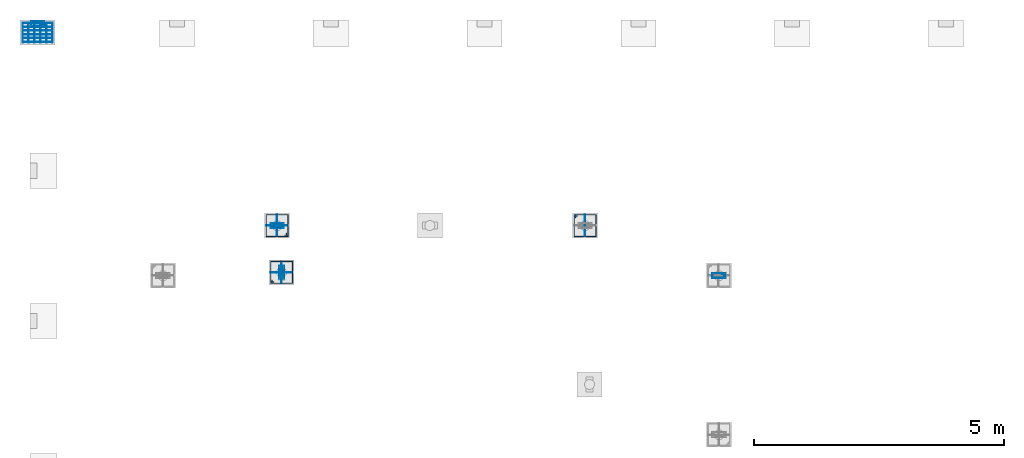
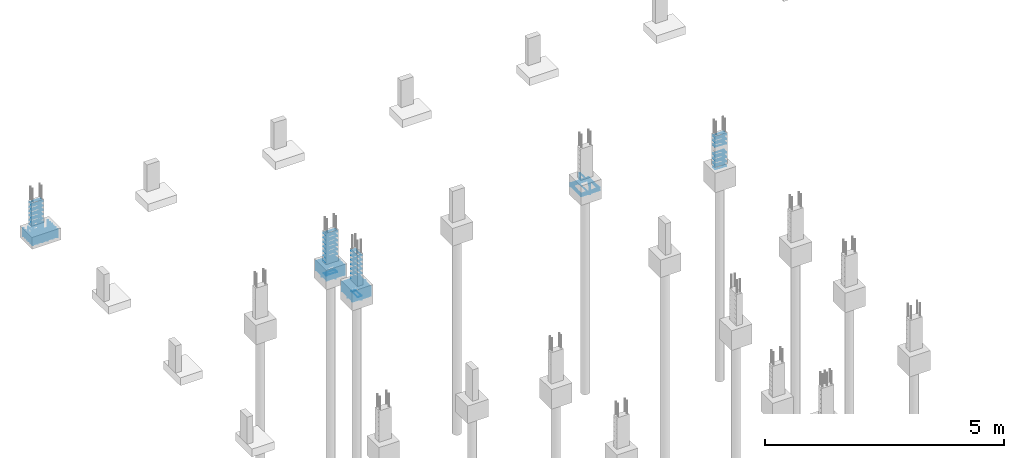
# One storey, part 105 of 119: 64 reinforcing bars.
"""IFC4 building model written with IfcOpenShell, lengths in centimetres."""

from ifc_helpers import new_model, entity, si_unit, derived_unit, frame, origin_with_axes, place, context, project, spatial, source, transform, mapped, element, save


model = new_model("IFC4")

# Units and contexts
model_context = context("Model", 3, precision=1e-05, world=origin_with_axes(), identifier="Body")
ifc_project = project(units=[si_unit("LENGTHUNIT", "METRE", prefix="CENTI"), si_unit("VOLUMEUNIT", "CUBIC_METRE"), si_unit("AREAUNIT", "SQUARE_METRE"), si_unit("POWERUNIT", "WATT"), si_unit("LUMINOUSFLUXUNIT", "LUMEN"), si_unit("ELECTRICCURRENTUNIT", "AMPERE"), si_unit("PRESSUREUNIT", "PASCAL", prefix="KILO"), si_unit("MASSUNIT", "GRAM", prefix="KILO"), si_unit("PLANEANGLEUNIT", "RADIAN"), derived_unit("VOLUMETRICFLOWRATEUNIT", [(si_unit("LENGTHUNIT", "METRE"), 3), (si_unit("TIMEUNIT", "SECOND"), -1)])], contexts=[model_context])

# Site, building, storey
site_placement = place(None, frame((-4000.0, 0.0, 0.0), z_axis=(0.0, 0.0, 1.0), x_axis=(1.0, 0.0, 0.0)))
site = spatial("IfcSite", under=ifc_project, at=site_placement, Name="PADRÃO")
building_placement = place(site_placement, frame((0.0, 0.0, -14.0)))
building = spatial("IfcBuilding", under=site, at=building_placement, Name="CRECHE PRÉ-ESCOLA TIPO 2")
storey_placement = place(building_placement, origin_with_axes())
storey = spatial("IfcBuildingStorey", under=building, at=storey_placement, Name="FUNDAÇÃO", CompositionType="ELEMENT", Elevation=-14.0)

# Reinforcing bars
shared_shape_1 = source(origin_with_axes(), model_context, "Body", "AdvancedSweptSolid", [
    entity("IfcSweptDiskSolid", entity("IfcCompositeCurve", [entity("IfcCompositeCurveSegment", "CONTINUOUS", True, entity("IfcPolyline", [entity("IfcCartesianPoint", [4.25, 21.75, 0.0]), entity("IfcCartesianPoint", [4.25, 27.75, 0.0])])), entity("IfcCompositeCurveSegment", "CONTINUOUS", True, entity("IfcPolyline", [entity("IfcCartesianPoint", [4.25, 27.75, 0.0]), entity("IfcCartesianPoint", [2.25, 27.75, 0.0])])), entity("IfcCompositeCurveSegment", "CONTINUOUS", True, entity("IfcPolyline", [entity("IfcCartesianPoint", [2.25, 27.75, 0.0]), entity("IfcCartesianPoint", [2.25, 2.25, 0.0])])), entity("IfcCompositeCurveSegment", "CONTINUOUS", True, entity("IfcPolyline", [entity("IfcCartesianPoint", [2.25, 2.25, 0.0]), entity("IfcCartesianPoint", [11.75, 2.25, 0.0])])), entity("IfcCompositeCurveSegment", "CONTINUOUS", True, entity("IfcPolyline", [entity("IfcCartesianPoint", [11.75, 2.25, 0.0]), entity("IfcCartesianPoint", [11.75, 27.75, -0.5])])), entity("IfcCompositeCurveSegment", "CONTINUOUS", True, entity("IfcPolyline", [entity("IfcCartesianPoint", [11.75, 27.75, -0.5]), entity("IfcCartesianPoint", [2.25, 27.75, -0.5])])), entity("IfcCompositeCurveSegment", "CONTINUOUS", True, entity("IfcPolyline", [entity("IfcCartesianPoint", [2.25, 27.75, -0.5]), entity("IfcCartesianPoint", [2.25, 25.75, -0.5])])), entity("IfcCompositeCurveSegment", "CONTINUOUS", True, entity("IfcPolyline", [entity("IfcCartesianPoint", [2.25, 25.75, -0.5]), entity("IfcCartesianPoint", [8.25, 25.75, -0.5])]))], False), 0.25),
])
for number, where, z_axis, x_axis, name in (
    (1, (1.5, 4495.5, -50.0625), (0.0, 0.0, 1.0), (0.0, -1.0, 0.0), "P1 - Estribo"),
    (2, (1.5, 4495.5, -38.9375), (0.0, 0.0, 1.0), (0.0, -1.0, 0.0), "P1 - Estribo"),
    (3, (1.5, 4495.5, -27.8125), (0.0, 0.0, 1.0), (0.0, -1.0, 0.0), "P1 - Estribo"),
    (4, (1.5, 4495.5, -16.6875), (0.0, 0.0, 1.0), (0.0, -1.0, 0.0), "P1 - Estribo"),
    (5, (1.5, 4495.5, -5.5625), (0.0, 0.0, 1.0), (0.0, -1.0, 0.0), "P1 - Estribo"),
    (6, (1.5, 4495.5, -83.4375), (0.0, 0.0, 1.0), (0.0, -1.0, 0.0), "P1 - Estribo"),
    (7, (1.5, 4495.5, -72.3125), (0.0, 0.0, 1.0), (0.0, -1.0, 0.0), "P1 - Estribo"),
    (8, (1.5, 4495.5, -61.1875), (0.0, 0.0, 1.0), (0.0, -1.0, 0.0), "P1 - Estribo"),
):
    element("IfcReinforcingBar", number, at=place(storey_placement, frame(where, z_axis=z_axis, x_axis=x_axis)), inside=storey, Name=name, BarLength=0.0, CrossSectionArea=1.9634954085e-05, NominalDiameter=0.5, PredefinedType="MAIN", context=model_context, shape_type="MappedRepresentation", body=[
        mapped(shared_shape_1, transform((0.0, 0.0, 0.0), scale=1.0)),
    ])
shared_shape_2 = source(origin_with_axes(), model_context, "Body", "AdvancedSweptSolid", [
    entity("IfcSweptDiskSolid", entity("IfcCompositeCurve", [entity("IfcCompositeCurveSegment", "CONTINUOUS", True, entity("IfcPolyline", [entity("IfcCartesianPoint", [0.0, 0.0, 19.6]), entity("IfcCartesianPoint", [0.0, 0.0, 0.0])])), entity("IfcCompositeCurveSegment", "CONTINUOUS", True, entity("IfcPolyline", [entity("IfcCartesianPoint", [0.0, 0.0, 0.0]), entity("IfcCartesianPoint", [39.2, 0.0, 0.0])])), entity("IfcCompositeCurveSegment", "CONTINUOUS", True, entity("IfcPolyline", [entity("IfcCartesianPoint", [39.2, 0.0, 0.0]), entity("IfcCartesianPoint", [39.2, 0.0, 19.6])]))], False), 0.4),
])
for number, where, z_axis, x_axis, name in (
    (9, (-13.1, 4490.1, -83.6), (0.0, 0.0, 1.0), (0.0, -1.0, 0.0), "P1 - Sapatas (inferior)"),
    (10, (-1.26, 4490.1, -83.6), (0.0, 0.0, 1.0), (0.0, -1.0, 0.0), "P1 - Sapatas (inferior)"),
    (11, (10.58, 4490.1, -83.6), (0.0, 0.0, 1.0), (0.0, -1.0, 0.0), "P1 - Sapatas (inferior)"),
    (12, (22.42, 4490.1, -83.6), (0.0, 0.0, 1.0), (0.0, -1.0, 0.0), "P1 - Sapatas (inferior)"),
    (13, (34.26, 4490.1, -83.6), (0.0, 0.0, 1.0), (0.0, -1.0, 0.0), "P1 - Sapatas (inferior)"),
    (14, (46.1, 4490.1, -83.6), (0.0, 0.0, 1.0), (0.0, -1.0, 0.0), "P1 - Sapatas (inferior)"),
):
    element("IfcReinforcingBar", number, at=place(storey_placement, frame(where, z_axis=z_axis, x_axis=x_axis)), inside=storey, Name=name, BarLength=0.0, CrossSectionArea=5.0265482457e-05, NominalDiameter=0.8, PredefinedType="MAIN", context=model_context, shape_type="MappedRepresentation", body=[
        mapped(shared_shape_2, transform((0.0, 0.0, 0.0), scale=1.0)),
    ])
shared_shape_3 = source(origin_with_axes(), model_context, "Body", "AdvancedSweptSolid", [
    entity("IfcSweptDiskSolid", entity("IfcCompositeCurve", [entity("IfcCompositeCurveSegment", "CONTINUOUS", True, entity("IfcPolyline", [entity("IfcCartesianPoint", [0.0, 0.0, 18.8]), entity("IfcCartesianPoint", [0.0, 0.0, 0.0])])), entity("IfcCompositeCurveSegment", "CONTINUOUS", True, entity("IfcPolyline", [entity("IfcCartesianPoint", [0.0, 0.0, 0.0]), entity("IfcCartesianPoint", [0.0, 59.2, 0.0])])), entity("IfcCompositeCurveSegment", "CONTINUOUS", True, entity("IfcPolyline", [entity("IfcCartesianPoint", [0.0, 59.2, 0.0]), entity("IfcCartesianPoint", [0.0, 59.2, 18.8])]))], False), 0.4),
])
for number, where, z_axis, x_axis, name in (
    (15, (-13.1, 4489.3, -82.8), (0.0, 0.0, 1.0), (0.0, -1.0, 0.0), "P1 - Sapatas (inferior)"),
    (16, (-13.1, 4481.78, -82.8), (0.0, 0.0, 1.0), (0.0, -1.0, 0.0), "P1 - Sapatas (inferior)"),
    (17, (-13.1, 4474.26, -82.8), (0.0, 0.0, 1.0), (0.0, -1.0, 0.0), "P1 - Sapatas (inferior)"),
    (18, (-13.1, 4466.74, -82.8), (0.0, 0.0, 1.0), (0.0, -1.0, 0.0), "P1 - Sapatas (inferior)"),
    (19, (-13.1, 4459.22, -82.8), (0.0, 0.0, 1.0), (0.0, -1.0, 0.0), "P1 - Sapatas (inferior)"),
    (20, (-13.1, 4451.7, -82.8), (0.0, 0.0, 1.0), (0.0, -1.0, 0.0), "P1 - Sapatas (inferior)"),
):
    element("IfcReinforcingBar", number, at=place(storey_placement, frame(where, z_axis=z_axis, x_axis=x_axis)), inside=storey, Name=name, BarLength=0.0, CrossSectionArea=5.0265482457e-05, NominalDiameter=0.8, PredefinedType="MAIN", context=model_context, shape_type="MappedRepresentation", body=[
        mapped(shared_shape_3, transform((0.0, 0.0, 0.0), scale=1.0)),
    ])
shared_shape_4 = source(origin_with_axes(), model_context, "Body", "AdvancedSweptSolid", [
    entity("IfcSweptDiskSolid", entity("IfcCompositeCurve", [entity("IfcCompositeCurveSegment", "CONTINUOUS", True, entity("IfcPolyline", [entity("IfcCartesianPoint", [4.25, 21.75, 0.0]), entity("IfcCartesianPoint", [4.25, 27.75, 0.0])])), entity("IfcCompositeCurveSegment", "CONTINUOUS", True, entity("IfcPolyline", [entity("IfcCartesianPoint", [4.25, 27.75, 0.0]), entity("IfcCartesianPoint", [2.25, 27.75, 0.0])])), entity("IfcCompositeCurveSegment", "CONTINUOUS", True, entity("IfcPolyline", [entity("IfcCartesianPoint", [2.25, 27.75, 0.0]), entity("IfcCartesianPoint", [2.25, 2.25, 0.0])])), entity("IfcCompositeCurveSegment", "CONTINUOUS", True, entity("IfcPolyline", [entity("IfcCartesianPoint", [2.25, 2.25, 0.0]), entity("IfcCartesianPoint", [11.75, 2.25, 0.0])])), entity("IfcCompositeCurveSegment", "CONTINUOUS", True, entity("IfcPolyline", [entity("IfcCartesianPoint", [11.75, 2.25, 0.0]), entity("IfcCartesianPoint", [11.75, 27.75, -0.5])])), entity("IfcCompositeCurveSegment", "CONTINUOUS", True, entity("IfcPolyline", [entity("IfcCartesianPoint", [11.75, 27.75, -0.5]), entity("IfcCartesianPoint", [2.25, 27.75, -0.5])])), entity("IfcCompositeCurveSegment", "CONTINUOUS", True, entity("IfcPolyline", [entity("IfcCartesianPoint", [2.25, 27.75, -0.5]), entity("IfcCartesianPoint", [2.25, 25.75, -0.5])])), entity("IfcCompositeCurveSegment", "CONTINUOUS", True, entity("IfcPolyline", [entity("IfcCartesianPoint", [2.25, 25.75, -0.5]), entity("IfcCartesianPoint", [8.25, 25.75, -0.5])]))], False), 0.25),
])
for number, where, z_axis, x_axis, name in (
    (21, (1361.84, 3992.0, -86.25), (0.0, 0.0, 1.0), (0.0, -1.0, 0.0), "P25 - Estribo"),
    (22, (1361.84, 3992.0, -74.75), (0.0, 0.0, 1.0), (0.0, -1.0, 0.0), "P25 - Estribo"),
    (23, (1361.84, 3992.0, -63.25), (0.0, 0.0, 1.0), (0.0, -1.0, 0.0), "P25 - Estribo"),
    (24, (1361.84, 3992.0, -51.75), (0.0, 0.0, 1.0), (0.0, -1.0, 0.0), "P25 - Estribo"),
    (25, (1361.84, 3992.0, -28.75), (0.0, 0.0, 1.0), (0.0, -1.0, 0.0), "P25 - Estribo"),
    (26, (1361.84, 3992.0, -17.25), (0.0, 0.0, 1.0), (0.0, -1.0, 0.0), "P25 - Estribo"),
    (27, (1361.84, 3992.0, -5.75), (0.0, 0.0, 1.0), (0.0, -1.0, 0.0), "P25 - Estribo"),
):
    element("IfcReinforcingBar", number, at=place(storey_placement, frame(where, z_axis=z_axis, x_axis=x_axis)), inside=storey, Name=name, BarLength=0.0, CrossSectionArea=1.9634954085e-05, NominalDiameter=0.5, PredefinedType="MAIN", context=model_context, shape_type="MappedRepresentation", body=[
        mapped(shared_shape_4, transform((0.0, 0.0, 0.0), scale=1.0)),
    ])
shared_shape_5 = source(origin_with_axes(), model_context, "Body", "AdvancedSweptSolid", [
    entity("IfcSweptDiskSolid", entity("IfcCompositeCurve", [entity("IfcCompositeCurveSegment", "CONTINUOUS", True, entity("IfcPolyline", [entity("IfcCartesianPoint", [1090.545, 4100.425, 0.0]), entity("IfcCartesianPoint", [1090.545, 4106.685, 0.0])])), entity("IfcCompositeCurveSegment", "CONTINUOUS", True, entity("IfcPolyline", [entity("IfcCartesianPoint", [1090.545, 4106.685, 0.0]), entity("IfcCartesianPoint", [1088.025, 4106.685, 0.0])])), entity("IfcCompositeCurveSegment", "CONTINUOUS", True, entity("IfcPolyline", [entity("IfcCartesianPoint", [1088.025, 4106.685, 0.0]), entity("IfcCartesianPoint", [1088.025, 4063.315, 0.0])])), entity("IfcCompositeCurveSegment", "CONTINUOUS", True, entity("IfcPolyline", [entity("IfcCartesianPoint", [1088.025, 4063.315, 0.0]), entity("IfcCartesianPoint", [1131.395, 4063.315, 0.63])])), entity("IfcCompositeCurveSegment", "CONTINUOUS", True, entity("IfcPolyline", [entity("IfcCartesianPoint", [1131.395, 4063.315, 0.63]), entity("IfcCartesianPoint", [1131.395, 4106.685, 0.63])])), entity("IfcCompositeCurveSegment", "CONTINUOUS", True, entity("IfcPolyline", [entity("IfcCartesianPoint", [1131.395, 4106.685, 0.63]), entity("IfcCartesianPoint", [1088.025, 4106.685, 0.63])])), entity("IfcCompositeCurveSegment", "CONTINUOUS", True, entity("IfcPolyline", [entity("IfcCartesianPoint", [1088.025, 4106.685, 0.63]), entity("IfcCartesianPoint", [1088.025, 4104.165, 0.63])])), entity("IfcCompositeCurveSegment", "CONTINUOUS", True, entity("IfcPolyline", [entity("IfcCartesianPoint", [1088.025, 4104.165, 0.63]), entity("IfcCartesianPoint", [1094.285, 4104.165, 0.63])]))], False), 0.315),
])
for number, where, z_axis, x_axis, name in (
    (28, (0.0, 0.0, -103.525), (0.0, 0.0, 1.0), (1.0, 0.0, 0.0), "P19 - Blocos (estribos)"),
    (29, (0.0, 0.0, -109.175), (0.0, 0.0, 1.0), (1.0, 0.0, 0.0), "P19 - Blocos (estribos)"),
):
    element("IfcReinforcingBar", number, at=place(storey_placement, frame(where, z_axis=z_axis, x_axis=x_axis)), inside=storey, Name=name, BarLength=0.0, CrossSectionArea=3.1172453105e-05, NominalDiameter=0.63, PredefinedType="MAIN", context=model_context, shape_type="MappedRepresentation", body=[
        mapped(shared_shape_5, transform((0.0, 0.0, 0.0), scale=1.0)),
    ])
shared_shape_6 = source(origin_with_axes(), model_context, "Body", "AdvancedSweptSolid", [
    entity("IfcSweptDiskSolid", entity("IfcCompositeCurve", [entity("IfcCompositeCurveSegment", "CONTINUOUS", True, entity("IfcPolyline", [entity("IfcCartesianPoint", [-15.12, -12.0, 0.0]), entity("IfcCartesianPoint", [-21.12, -12.0, 0.0])])), entity("IfcCompositeCurveSegment", "CONTINUOUS", True, entity("IfcPolyline", [entity("IfcCartesianPoint", [-21.12, -12.0, 0.0]), entity("IfcCartesianPoint", [-21.12, -14.0, 0.0])])), entity("IfcCompositeCurveSegment", "CONTINUOUS", True, entity("IfcPolyline", [entity("IfcCartesianPoint", [-21.12, -14.0, 0.0]), entity("IfcCartesianPoint", [21.12, -14.0, 0.0])])), entity("IfcCompositeCurveSegment", "CONTINUOUS", True, entity("IfcPolyline", [entity("IfcCartesianPoint", [21.12, -14.0, 0.0]), entity("IfcCartesianPoint", [21.12, 14.0, 0.5])])), entity("IfcCompositeCurveSegment", "CONTINUOUS", True, entity("IfcPolyline", [entity("IfcCartesianPoint", [21.12, 14.0, 0.5]), entity("IfcCartesianPoint", [-21.12, 14.0, 0.5])])), entity("IfcCompositeCurveSegment", "CONTINUOUS", True, entity("IfcPolyline", [entity("IfcCartesianPoint", [-21.12, 14.0, 0.5]), entity("IfcCartesianPoint", [-21.12, -14.0, 0.5])])), entity("IfcCompositeCurveSegment", "CONTINUOUS", True, entity("IfcPolyline", [entity("IfcCartesianPoint", [-21.12, -14.0, 0.5]), entity("IfcCartesianPoint", [-19.12, -14.0, 0.5])])), entity("IfcCompositeCurveSegment", "CONTINUOUS", True, entity("IfcPolyline", [entity("IfcCartesianPoint", [-19.12, -14.0, 0.5]), entity("IfcCartesianPoint", [-19.12, -8.0, 0.5])]))], False), 0.25),
])
reinforcing_bar_1_placement = place(storey_placement, frame((1109.71, 4085.0, -97.75), z_axis=(-1.0, 0.0, 0.0), x_axis=(0.0, 1.0, 0.0)))
element("IfcReinforcingBar", 30, at=reinforcing_bar_1_placement, inside=storey, Name="P19 - Blocos (estribos)", BarLength=0.0, CrossSectionArea=1.9634954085e-05, NominalDiameter=0.5, PredefinedType="MAIN", context=model_context, shape_type="MappedRepresentation", body=[
    mapped(shared_shape_6, transform((0.0, 0.0, 0.0), scale=1.0)),
])
shared_shape_7 = source(origin_with_axes(), model_context, "Body", "AdvancedSweptSolid", [
    entity("IfcSweptDiskSolid", entity("IfcCompositeCurve", [entity("IfcCompositeCurveSegment", "CONTINUOUS", True, entity("IfcPolyline", [entity("IfcCartesianPoint", [4.25, 21.75, 0.0]), entity("IfcCartesianPoint", [4.25, 27.75, 0.0])])), entity("IfcCompositeCurveSegment", "CONTINUOUS", True, entity("IfcPolyline", [entity("IfcCartesianPoint", [4.25, 27.75, 0.0]), entity("IfcCartesianPoint", [2.25, 27.75, 0.0])])), entity("IfcCompositeCurveSegment", "CONTINUOUS", True, entity("IfcPolyline", [entity("IfcCartesianPoint", [2.25, 27.75, 0.0]), entity("IfcCartesianPoint", [2.25, 2.25, 0.0])])), entity("IfcCompositeCurveSegment", "CONTINUOUS", True, entity("IfcPolyline", [entity("IfcCartesianPoint", [2.25, 2.25, 0.0]), entity("IfcCartesianPoint", [11.75, 2.25, 0.0])])), entity("IfcCompositeCurveSegment", "CONTINUOUS", True, entity("IfcPolyline", [entity("IfcCartesianPoint", [11.75, 2.25, 0.0]), entity("IfcCartesianPoint", [11.75, 27.75, -0.5])])), entity("IfcCompositeCurveSegment", "CONTINUOUS", True, entity("IfcPolyline", [entity("IfcCartesianPoint", [11.75, 27.75, -0.5]), entity("IfcCartesianPoint", [2.25, 27.75, -0.5])])), entity("IfcCompositeCurveSegment", "CONTINUOUS", True, entity("IfcPolyline", [entity("IfcCartesianPoint", [2.25, 27.75, -0.5]), entity("IfcCartesianPoint", [2.25, 25.75, -0.5])])), entity("IfcCompositeCurveSegment", "CONTINUOUS", True, entity("IfcPolyline", [entity("IfcCartesianPoint", [2.25, 25.75, -0.5]), entity("IfcCartesianPoint", [8.25, 25.75, -0.5])]))], False), 0.25),
])
for number, where, z_axis, x_axis, name in (
    (31, (509.67, 4078.0, -51.75), (0.0, 0.0, 1.0), (0.0, 1.0, 0.0), "P17 - Estribo"),
    (32, (509.67, 4078.0, -40.25), (0.0, 0.0, 1.0), (0.0, 1.0, 0.0), "P17 - Estribo"),
    (33, (509.67, 4078.0, -17.25), (0.0, 0.0, 1.0), (0.0, 1.0, 0.0), "P17 - Estribo"),
    (34, (509.67, 4078.0, -28.75), (0.0, 0.0, 1.0), (0.0, 1.0, 0.0), "P17 - Estribo"),
    (35, (509.67, 4078.0, -86.25), (0.0, 0.0, 1.0), (0.0, 1.0, 0.0), "P17 - Estribo"),
    (36, (509.67, 4078.0, -5.75), (0.0, 0.0, 1.0), (0.0, 1.0, 0.0), "P17 - Estribo"),
    (37, (509.67, 4078.0, -63.25), (0.0, 0.0, 1.0), (0.0, 1.0, 0.0), "P17 - Estribo"),
    (38, (509.67, 4078.0, -74.75), (0.0, 0.0, 1.0), (0.0, 1.0, 0.0), "P17 - Estribo"),
    (39, (509.67, 4078.0, -97.75), (0.0, 0.0, 1.0), (0.0, 1.0, 0.0), "P17 - Estribo"),
    (40, (509.67, 4078.0, -109.25), (0.0, 0.0, 1.0), (0.0, 1.0, 0.0), "P17 - Estribo"),
):
    element("IfcReinforcingBar", number, at=place(storey_placement, frame(where, z_axis=z_axis, x_axis=x_axis)), inside=storey, Name=name, BarLength=0.0, CrossSectionArea=1.9634954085e-05, NominalDiameter=0.5, PredefinedType="MAIN", context=model_context, shape_type="MappedRepresentation", body=[
        mapped(shared_shape_7, transform((0.0, 0.0, 0.0), scale=1.0)),
    ])
shared_shape_8 = source(origin_with_axes(), model_context, "Body", "AdvancedSweptSolid", [
    entity("IfcSweptDiskSolid", entity("IfcCompositeCurve", [entity("IfcCompositeCurveSegment", "CONTINUOUS", True, entity("IfcPolyline", [entity("IfcCartesianPoint", [513.835, 4069.575, 0.0]), entity("IfcCartesianPoint", [513.835, 4063.315, 0.0])])), entity("IfcCompositeCurveSegment", "CONTINUOUS", True, entity("IfcPolyline", [entity("IfcCartesianPoint", [513.835, 4063.315, 0.0]), entity("IfcCartesianPoint", [516.355, 4063.315, 0.0])])), entity("IfcCompositeCurveSegment", "CONTINUOUS", True, entity("IfcPolyline", [entity("IfcCartesianPoint", [516.355, 4063.315, 0.0]), entity("IfcCartesianPoint", [516.355, 4106.685, 0.0])])), entity("IfcCompositeCurveSegment", "CONTINUOUS", True, entity("IfcPolyline", [entity("IfcCartesianPoint", [516.355, 4106.685, 0.0]), entity("IfcCartesianPoint", [472.985, 4106.685, 0.63])])), entity("IfcCompositeCurveSegment", "CONTINUOUS", True, entity("IfcPolyline", [entity("IfcCartesianPoint", [472.985, 4106.685, 0.63]), entity("IfcCartesianPoint", [472.985, 4063.315, 0.63])])), entity("IfcCompositeCurveSegment", "CONTINUOUS", True, entity("IfcPolyline", [entity("IfcCartesianPoint", [472.985, 4063.315, 0.63]), entity("IfcCartesianPoint", [516.355, 4063.315, 0.63])])), entity("IfcCompositeCurveSegment", "CONTINUOUS", True, entity("IfcPolyline", [entity("IfcCartesianPoint", [516.355, 4063.315, 0.63]), entity("IfcCartesianPoint", [516.355, 4065.835, 0.63])])), entity("IfcCompositeCurveSegment", "CONTINUOUS", True, entity("IfcPolyline", [entity("IfcCartesianPoint", [516.355, 4065.835, 0.63]), entity("IfcCartesianPoint", [510.095, 4065.835, 0.63])]))], False), 0.315),
])
for number, where, z_axis, x_axis, name in (
    (41, (0.0, 0.0, -97.875), (0.0, 0.0, 1.0), (1.0, 0.0, 0.0), "P17 - Blocos (estribos)"),
    (42, (0.0, 0.0, -92.225), (0.0, 0.0, 1.0), (1.0, 0.0, 0.0), "P17 - Blocos (estribos)"),
    (43, (0.0, 0.0, -86.575), (0.0, 0.0, 1.0), (1.0, 0.0, 0.0), "P17 - Blocos (estribos)"),
    (44, (0.0, 0.0, -109.175), (0.0, 0.0, 1.0), (1.0, 0.0, 0.0), "P17 - Blocos (estribos)"),
    (45, (0.0, 0.0, -103.525), (0.0, 0.0, 1.0), (1.0, 0.0, 0.0), "P17 - Blocos (estribos)"),
):
    element("IfcReinforcingBar", number, at=place(storey_placement, frame(where, z_axis=z_axis, x_axis=x_axis)), inside=storey, Name=name, BarLength=0.0, CrossSectionArea=3.1172453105e-05, NominalDiameter=0.63, PredefinedType="MAIN", context=model_context, shape_type="MappedRepresentation", body=[
        mapped(shared_shape_8, transform((0.0, 0.0, 0.0), scale=1.0)),
    ])
shared_shape_9 = source(origin_with_axes(), model_context, "Body", "AdvancedSweptSolid", [
    entity("IfcSweptDiskSolid", entity("IfcCompositeCurve", [entity("IfcCompositeCurveSegment", "CONTINUOUS", True, entity("IfcPolyline", [entity("IfcCartesianPoint", [-15.12, -12.0, 0.0]), entity("IfcCartesianPoint", [-21.12, -12.0, 0.0])])), entity("IfcCompositeCurveSegment", "CONTINUOUS", True, entity("IfcPolyline", [entity("IfcCartesianPoint", [-21.12, -12.0, 0.0]), entity("IfcCartesianPoint", [-21.12, -14.0, 0.0])])), entity("IfcCompositeCurveSegment", "CONTINUOUS", True, entity("IfcPolyline", [entity("IfcCartesianPoint", [-21.12, -14.0, 0.0]), entity("IfcCartesianPoint", [21.12, -14.0, 0.0])])), entity("IfcCompositeCurveSegment", "CONTINUOUS", True, entity("IfcPolyline", [entity("IfcCartesianPoint", [21.12, -14.0, 0.0]), entity("IfcCartesianPoint", [21.12, 14.0, 0.5])])), entity("IfcCompositeCurveSegment", "CONTINUOUS", True, entity("IfcPolyline", [entity("IfcCartesianPoint", [21.12, 14.0, 0.5]), entity("IfcCartesianPoint", [-21.12, 14.0, 0.5])])), entity("IfcCompositeCurveSegment", "CONTINUOUS", True, entity("IfcPolyline", [entity("IfcCartesianPoint", [-21.12, 14.0, 0.5]), entity("IfcCartesianPoint", [-21.12, -14.0, 0.5])])), entity("IfcCompositeCurveSegment", "CONTINUOUS", True, entity("IfcPolyline", [entity("IfcCartesianPoint", [-21.12, -14.0, 0.5]), entity("IfcCartesianPoint", [-19.12, -14.0, 0.5])])), entity("IfcCompositeCurveSegment", "CONTINUOUS", True, entity("IfcPolyline", [entity("IfcCartesianPoint", [-19.12, -14.0, 0.5]), entity("IfcCartesianPoint", [-19.12, -8.0, 0.5])]))], False), 0.25),
])
reinforcing_bar_2_placement = place(storey_placement, frame((494.67, 4085.0, -97.75), z_axis=(0.0, -1.0, 0.0), x_axis=(-1.0, 0.0, 0.0)))
element("IfcReinforcingBar", 46, at=reinforcing_bar_2_placement, inside=storey, Name="P17 - Blocos (estribos)", BarLength=0.0, CrossSectionArea=1.9634954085e-05, NominalDiameter=0.5, PredefinedType="MAIN", context=model_context, shape_type="MappedRepresentation", body=[
    mapped(shared_shape_9, transform((0.0, 0.0, 0.0), scale=1.0)),
])
shared_shape_10 = source(origin_with_axes(), model_context, "Body", "AdvancedSweptSolid", [
    entity("IfcSweptDiskSolid", entity("IfcCompositeCurve", [entity("IfcCompositeCurveSegment", "CONTINUOUS", True, entity("IfcPolyline", [entity("IfcCartesianPoint", [-15.12, -12.0, 0.0]), entity("IfcCartesianPoint", [-21.12, -12.0, 0.0])])), entity("IfcCompositeCurveSegment", "CONTINUOUS", True, entity("IfcPolyline", [entity("IfcCartesianPoint", [-21.12, -12.0, 0.0]), entity("IfcCartesianPoint", [-21.12, -14.0, 0.0])])), entity("IfcCompositeCurveSegment", "CONTINUOUS", True, entity("IfcPolyline", [entity("IfcCartesianPoint", [-21.12, -14.0, 0.0]), entity("IfcCartesianPoint", [21.12, -14.0, 0.0])])), entity("IfcCompositeCurveSegment", "CONTINUOUS", True, entity("IfcPolyline", [entity("IfcCartesianPoint", [21.12, -14.0, 0.0]), entity("IfcCartesianPoint", [21.12, 14.0, 0.5])])), entity("IfcCompositeCurveSegment", "CONTINUOUS", True, entity("IfcPolyline", [entity("IfcCartesianPoint", [21.12, 14.0, 0.5]), entity("IfcCartesianPoint", [-21.12, 14.0, 0.5])])), entity("IfcCompositeCurveSegment", "CONTINUOUS", True, entity("IfcPolyline", [entity("IfcCartesianPoint", [-21.12, 14.0, 0.5]), entity("IfcCartesianPoint", [-21.12, -14.0, 0.5])])), entity("IfcCompositeCurveSegment", "CONTINUOUS", True, entity("IfcPolyline", [entity("IfcCartesianPoint", [-21.12, -14.0, 0.5]), entity("IfcCartesianPoint", [-19.12, -14.0, 0.5])])), entity("IfcCompositeCurveSegment", "CONTINUOUS", True, entity("IfcPolyline", [entity("IfcCartesianPoint", [-19.12, -14.0, 0.5]), entity("IfcCartesianPoint", [-19.12, -8.0, 0.5])]))], False), 0.25),
])
reinforcing_bar_3_placement = place(storey_placement, frame((494.67, 4085.0, -97.75), z_axis=(1.0, 0.0, 0.0), x_axis=(0.0, -1.0, 0.0)))
element("IfcReinforcingBar", 47, at=reinforcing_bar_3_placement, inside=storey, Name="P17 - Blocos (estribos)", BarLength=0.0, CrossSectionArea=1.9634954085e-05, NominalDiameter=0.5, PredefinedType="MAIN", context=model_context, shape_type="MappedRepresentation", body=[
    mapped(shared_shape_10, transform((0.0, 0.0, 0.0), scale=1.0)),
])
shared_shape_11 = source(origin_with_axes(), model_context, "Body", "AdvancedSweptSolid", [
    entity("IfcSweptDiskSolid", entity("IfcCompositeCurve", [entity("IfcCompositeCurveSegment", "CONTINUOUS", True, entity("IfcPolyline", [entity("IfcCartesianPoint", [4.25, 21.75, 0.0]), entity("IfcCartesianPoint", [4.25, 27.75, 0.0])])), entity("IfcCompositeCurveSegment", "CONTINUOUS", True, entity("IfcPolyline", [entity("IfcCartesianPoint", [4.25, 27.75, 0.0]), entity("IfcCartesianPoint", [2.25, 27.75, 0.0])])), entity("IfcCompositeCurveSegment", "CONTINUOUS", True, entity("IfcPolyline", [entity("IfcCartesianPoint", [2.25, 27.75, 0.0]), entity("IfcCartesianPoint", [2.25, 2.25, 0.0])])), entity("IfcCompositeCurveSegment", "CONTINUOUS", True, entity("IfcPolyline", [entity("IfcCartesianPoint", [2.25, 2.25, 0.0]), entity("IfcCartesianPoint", [11.75, 2.25, 0.0])])), entity("IfcCompositeCurveSegment", "CONTINUOUS", True, entity("IfcPolyline", [entity("IfcCartesianPoint", [11.75, 2.25, 0.0]), entity("IfcCartesianPoint", [11.75, 27.75, -0.5])])), entity("IfcCompositeCurveSegment", "CONTINUOUS", True, entity("IfcPolyline", [entity("IfcCartesianPoint", [11.75, 27.75, -0.5]), entity("IfcCartesianPoint", [2.25, 27.75, -0.5])])), entity("IfcCompositeCurveSegment", "CONTINUOUS", True, entity("IfcPolyline", [entity("IfcCartesianPoint", [2.25, 27.75, -0.5]), entity("IfcCartesianPoint", [2.25, 25.75, -0.5])])), entity("IfcCompositeCurveSegment", "CONTINUOUS", True, entity("IfcPolyline", [entity("IfcCartesianPoint", [2.25, 25.75, -0.5]), entity("IfcCartesianPoint", [8.25, 25.75, -0.5])]))], False), 0.25),
])
for number, where, z_axis, x_axis, name in (
    (48, (496.67, 3976.5, -28.75), (0.0, 0.0, 1.0), (1.0, 0.0, 0.0), "P24 - Estribo"),
    (49, (496.67, 3976.5, -17.25), (0.0, 0.0, 1.0), (1.0, 0.0, 0.0), "P24 - Estribo"),
    (50, (496.67, 3976.5, -5.75), (0.0, 0.0, 1.0), (1.0, 0.0, 0.0), "P24 - Estribo"),
    (51, (496.67, 3976.5, -51.75), (0.0, 0.0, 1.0), (1.0, 0.0, 0.0), "P24 - Estribo"),
    (52, (496.67, 3976.5, -109.25), (0.0, 0.0, 1.0), (1.0, 0.0, 0.0), "P24 - Estribo"),
    (53, (496.67, 3976.5, -97.75), (0.0, 0.0, 1.0), (1.0, 0.0, 0.0), "P24 - Estribo"),
    (54, (496.67, 3976.5, -86.25), (0.0, 0.0, 1.0), (1.0, 0.0, 0.0), "P24 - Estribo"),
    (55, (496.67, 3976.5, -74.75), (0.0, 0.0, 1.0), (1.0, 0.0, 0.0), "P24 - Estribo"),
    (56, (496.67, 3976.5, -63.25), (0.0, 0.0, 1.0), (1.0, 0.0, 0.0), "P24 - Estribo"),
    (57, (496.67, 3976.5, -40.25), (0.0, 0.0, 1.0), (1.0, 0.0, 0.0), "P24 - Estribo"),
):
    element("IfcReinforcingBar", number, at=place(storey_placement, frame(where, z_axis=z_axis, x_axis=x_axis)), inside=storey, Name=name, BarLength=0.0, CrossSectionArea=1.9634954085e-05, NominalDiameter=0.5, PredefinedType="MAIN", context=model_context, shape_type="MappedRepresentation", body=[
        mapped(shared_shape_11, transform((0.0, 0.0, 0.0), scale=1.0)),
    ])
shared_shape_12 = source(origin_with_axes(), model_context, "Body", "AdvancedSweptSolid", [
    entity("IfcSweptDiskSolid", entity("IfcCompositeCurve", [entity("IfcCompositeCurveSegment", "CONTINUOUS", True, entity("IfcPolyline", [entity("IfcCartesianPoint", [488.245, 3972.335, 0.0]), entity("IfcCartesianPoint", [481.985, 3972.335, 0.0])])), entity("IfcCompositeCurveSegment", "CONTINUOUS", True, entity("IfcPolyline", [entity("IfcCartesianPoint", [481.985, 3972.335, 0.0]), entity("IfcCartesianPoint", [481.985, 3969.815, 0.0])])), entity("IfcCompositeCurveSegment", "CONTINUOUS", True, entity("IfcPolyline", [entity("IfcCartesianPoint", [481.985, 3969.815, 0.0]), entity("IfcCartesianPoint", [525.355, 3969.815, 0.0])])), entity("IfcCompositeCurveSegment", "CONTINUOUS", True, entity("IfcPolyline", [entity("IfcCartesianPoint", [525.355, 3969.815, 0.0]), entity("IfcCartesianPoint", [525.355, 4013.185, 0.63])])), entity("IfcCompositeCurveSegment", "CONTINUOUS", True, entity("IfcPolyline", [entity("IfcCartesianPoint", [525.355, 4013.185, 0.63]), entity("IfcCartesianPoint", [481.985, 4013.185, 0.63])])), entity("IfcCompositeCurveSegment", "CONTINUOUS", True, entity("IfcPolyline", [entity("IfcCartesianPoint", [481.985, 4013.185, 0.63]), entity("IfcCartesianPoint", [481.985, 3969.815, 0.63])])), entity("IfcCompositeCurveSegment", "CONTINUOUS", True, entity("IfcPolyline", [entity("IfcCartesianPoint", [481.985, 3969.815, 0.63]), entity("IfcCartesianPoint", [484.505, 3969.815, 0.63])])), entity("IfcCompositeCurveSegment", "CONTINUOUS", True, entity("IfcPolyline", [entity("IfcCartesianPoint", [484.505, 3969.815, 0.63]), entity("IfcCartesianPoint", [484.505, 3976.075, 0.63])]))], False), 0.315),
])
for number, where, z_axis, x_axis, name in (
    (58, (0.0, 0.0, -109.175), (0.0, 0.0, 1.0), (1.0, 0.0, 0.0), "P24 - Blocos (estribos)"),
    (59, (0.0, 0.0, -97.875), (0.0, 0.0, 1.0), (1.0, 0.0, 0.0), "P24 - Blocos (estribos)"),
    (60, (0.0, 0.0, -92.225), (0.0, 0.0, 1.0), (1.0, 0.0, 0.0), "P24 - Blocos (estribos)"),
    (61, (0.0, 0.0, -86.575), (0.0, 0.0, 1.0), (1.0, 0.0, 0.0), "P24 - Blocos (estribos)"),
    (62, (0.0, 0.0, -103.525), (0.0, 0.0, 1.0), (1.0, 0.0, 0.0), "P24 - Blocos (estribos)"),
):
    element("IfcReinforcingBar", number, at=place(storey_placement, frame(where, z_axis=z_axis, x_axis=x_axis)), inside=storey, Name=name, BarLength=0.0, CrossSectionArea=3.1172453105e-05, NominalDiameter=0.63, PredefinedType="MAIN", context=model_context, shape_type="MappedRepresentation", body=[
        mapped(shared_shape_12, transform((0.0, 0.0, 0.0), scale=1.0)),
    ])
shared_shape_13 = source(origin_with_axes(), model_context, "Body", "AdvancedSweptSolid", [
    entity("IfcSweptDiskSolid", entity("IfcCompositeCurve", [entity("IfcCompositeCurveSegment", "CONTINUOUS", True, entity("IfcPolyline", [entity("IfcCartesianPoint", [-15.12, -12.0, 0.0]), entity("IfcCartesianPoint", [-21.12, -12.0, 0.0])])), entity("IfcCompositeCurveSegment", "CONTINUOUS", True, entity("IfcPolyline", [entity("IfcCartesianPoint", [-21.12, -12.0, 0.0]), entity("IfcCartesianPoint", [-21.12, -14.0, 0.0])])), entity("IfcCompositeCurveSegment", "CONTINUOUS", True, entity("IfcPolyline", [entity("IfcCartesianPoint", [-21.12, -14.0, 0.0]), entity("IfcCartesianPoint", [21.12, -14.0, 0.0])])), entity("IfcCompositeCurveSegment", "CONTINUOUS", True, entity("IfcPolyline", [entity("IfcCartesianPoint", [21.12, -14.0, 0.0]), entity("IfcCartesianPoint", [21.12, 14.0, 0.5])])), entity("IfcCompositeCurveSegment", "CONTINUOUS", True, entity("IfcPolyline", [entity("IfcCartesianPoint", [21.12, 14.0, 0.5]), entity("IfcCartesianPoint", [-21.12, 14.0, 0.5])])), entity("IfcCompositeCurveSegment", "CONTINUOUS", True, entity("IfcPolyline", [entity("IfcCartesianPoint", [-21.12, 14.0, 0.5]), entity("IfcCartesianPoint", [-21.12, -14.0, 0.5])])), entity("IfcCompositeCurveSegment", "CONTINUOUS", True, entity("IfcPolyline", [entity("IfcCartesianPoint", [-21.12, -14.0, 0.5]), entity("IfcCartesianPoint", [-19.12, -14.0, 0.5])])), entity("IfcCompositeCurveSegment", "CONTINUOUS", True, entity("IfcPolyline", [entity("IfcCartesianPoint", [-19.12, -14.0, 0.5]), entity("IfcCartesianPoint", [-19.12, -8.0, 0.5])]))], False), 0.25),
])
reinforcing_bar_4_placement = place(storey_placement, frame((503.67, 3991.5, -97.75), z_axis=(-1.0, 0.0, 0.0), x_axis=(0.0, 1.0, 0.0)))
element("IfcReinforcingBar", 63, at=reinforcing_bar_4_placement, inside=storey, Name="P24 - Blocos (estribos)", BarLength=0.0, CrossSectionArea=1.9634954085e-05, NominalDiameter=0.5, PredefinedType="MAIN", context=model_context, shape_type="MappedRepresentation", body=[
    mapped(shared_shape_13, transform((0.0, 0.0, 0.0), scale=1.0)),
])
shared_shape_14 = source(origin_with_axes(), model_context, "Body", "AdvancedSweptSolid", [
    entity("IfcSweptDiskSolid", entity("IfcCompositeCurve", [entity("IfcCompositeCurveSegment", "CONTINUOUS", True, entity("IfcPolyline", [entity("IfcCartesianPoint", [-15.12, -12.0, 0.0]), entity("IfcCartesianPoint", [-21.12, -12.0, 0.0])])), entity("IfcCompositeCurveSegment", "CONTINUOUS", True, entity("IfcPolyline", [entity("IfcCartesianPoint", [-21.12, -12.0, 0.0]), entity("IfcCartesianPoint", [-21.12, -14.0, 0.0])])), entity("IfcCompositeCurveSegment", "CONTINUOUS", True, entity("IfcPolyline", [entity("IfcCartesianPoint", [-21.12, -14.0, 0.0]), entity("IfcCartesianPoint", [21.12, -14.0, 0.0])])), entity("IfcCompositeCurveSegment", "CONTINUOUS", True, entity("IfcPolyline", [entity("IfcCartesianPoint", [21.12, -14.0, 0.0]), entity("IfcCartesianPoint", [21.12, 14.0, 0.5])])), entity("IfcCompositeCurveSegment", "CONTINUOUS", True, entity("IfcPolyline", [entity("IfcCartesianPoint", [21.12, 14.0, 0.5]), entity("IfcCartesianPoint", [-21.12, 14.0, 0.5])])), entity("IfcCompositeCurveSegment", "CONTINUOUS", True, entity("IfcPolyline", [entity("IfcCartesianPoint", [-21.12, 14.0, 0.5]), entity("IfcCartesianPoint", [-21.12, -14.0, 0.5])])), entity("IfcCompositeCurveSegment", "CONTINUOUS", True, entity("IfcPolyline", [entity("IfcCartesianPoint", [-21.12, -14.0, 0.5]), entity("IfcCartesianPoint", [-19.12, -14.0, 0.5])])), entity("IfcCompositeCurveSegment", "CONTINUOUS", True, entity("IfcPolyline", [entity("IfcCartesianPoint", [-19.12, -14.0, 0.5]), entity("IfcCartesianPoint", [-19.12, -8.0, 0.5])]))], False), 0.25),
])
reinforcing_bar_5_placement = place(storey_placement, frame((503.67, 3991.5, -97.75), z_axis=(0.0, -1.0, 0.0), x_axis=(-1.0, 0.0, 0.0)))
element("IfcReinforcingBar", 64, at=reinforcing_bar_5_placement, inside=storey, Name="P24 - Blocos (estribos)", BarLength=0.0, CrossSectionArea=1.9634954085e-05, NominalDiameter=0.5, PredefinedType="MAIN", context=model_context, shape_type="MappedRepresentation", body=[
    mapped(shared_shape_14, transform((0.0, 0.0, 0.0), scale=1.0)),
])

save(model, "model.ifc")
